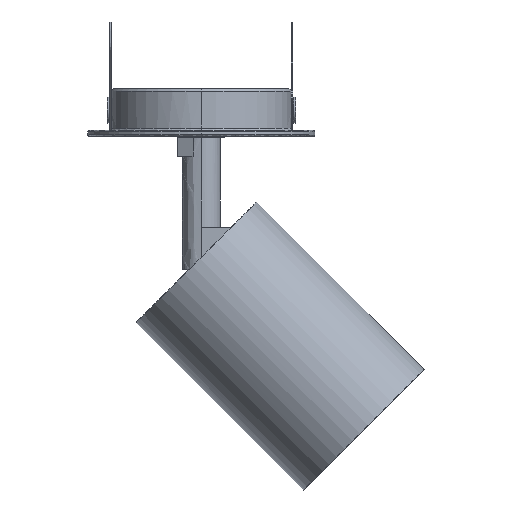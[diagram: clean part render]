
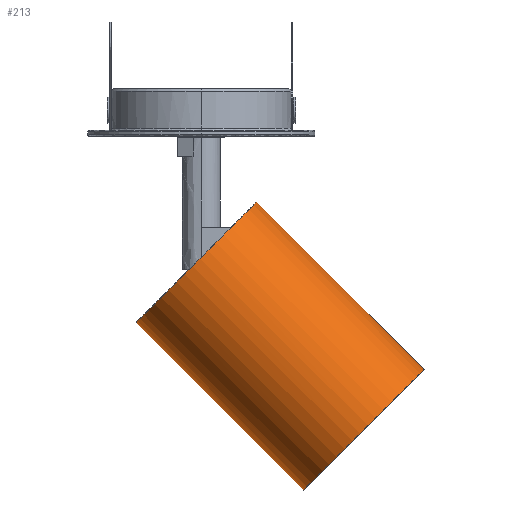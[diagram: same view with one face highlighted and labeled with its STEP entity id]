
A CAD part, front view. The second image highlights one B-rep face of the part: STEP entity #213.
In plain terms, the highlighted free-form (B-spline) face has degree [2, 1] with [9, 2] control points.
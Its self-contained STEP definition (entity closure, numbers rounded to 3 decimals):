
#213=ADVANCED_FACE('',(#781),#8598,.T.);
#781=FACE_OUTER_BOUND('',#1354,.T.);
#1354=EDGE_LOOP('',(#2315,#2316,#2317,#2318));
#2315=ORIENTED_EDGE('',*,*,#4972,.T.);
#2316=ORIENTED_EDGE('',*,*,#4968,.T.);
#2317=ORIENTED_EDGE('',*,*,#4973,.T.);
#2318=ORIENTED_EDGE('',*,*,#4969,.T.);
#4968=EDGE_CURVE('',#7781,#7782,#6339,.T.);
#4969=EDGE_CURVE('',#7783,#7780,#6340,.T.);
#4972=EDGE_CURVE('',#7780,#7781,#7112,.T.);
#4973=EDGE_CURVE('',#7782,#7783,#7113,.T.);
#6339=B_SPLINE_CURVE_WITH_KNOTS('',1,(#11070,#11071),.UNSPECIFIED.,.F.,
 .F.,(2,2),(0.,50.),.UNSPECIFIED.);
#6340=B_SPLINE_CURVE_WITH_KNOTS('',1,(#11072,#11073),.UNSPECIFIED.,.F.,
 .F.,(2,2),(0.,50.),.UNSPECIFIED.);
#7112=(
BOUNDED_CURVE()
B_SPLINE_CURVE(2,(#11084,#11085,#11086,#11087,#11088),.UNSPECIFIED.,.F.,
 .F.)
B_SPLINE_CURVE_WITH_KNOTS((3,2,3),(0.,28.274,56.549),
 .UNSPECIFIED.)
CURVE()
GEOMETRIC_REPRESENTATION_ITEM()
RATIONAL_B_SPLINE_CURVE((1.,0.707,1.,0.707,1.))
REPRESENTATION_ITEM('')
);
#7113=(
BOUNDED_CURVE()
B_SPLINE_CURVE(2,(#11089,#11090,#11091,#11092,#11093),.UNSPECIFIED.,.F.,
 .F.)
B_SPLINE_CURVE_WITH_KNOTS((3,2,3),(0.,28.274,56.549),
 .UNSPECIFIED.)
CURVE()
GEOMETRIC_REPRESENTATION_ITEM()
RATIONAL_B_SPLINE_CURVE((1.,0.707,1.,0.707,1.))
REPRESENTATION_ITEM('')
);
#7780=VERTEX_POINT('',#11061);
#7781=VERTEX_POINT('',#11062);
#7782=VERTEX_POINT('',#11063);
#7783=VERTEX_POINT('',#11064);
#8598=(
BOUNDED_SURFACE()
B_SPLINE_SURFACE(2,1,((#11005,#11006),(#11007,#11008),(#11009,#11010),(#11011,
#11012),(#11013,#11014),(#11015,#11016),(#11017,#11018),(#11019,#11020),
(#11021,#11022)),.UNSPECIFIED.,.T.,.F.,.F.)
B_SPLINE_SURFACE_WITH_KNOTS((3,2,2,2,3),(2,2),(0.,1.571,3.142,
4.712,6.283),(0.,60.),.UNSPECIFIED.)
GEOMETRIC_REPRESENTATION_ITEM()
RATIONAL_B_SPLINE_SURFACE(((1.,1.),(0.707,0.707),
(1.,1.),(0.707,0.707),(1.,1.),(0.707,
0.707),(1.,1.),(0.707,0.707),(1.,1.)))
REPRESENTATION_ITEM('')
SURFACE()
);
#11005=CARTESIAN_POINT('',(37.85,-8.514,-40.221));
#11006=CARTESIAN_POINT('',(-4.577,-8.514,2.205));
#11007=CARTESIAN_POINT('',(25.122,-8.514,-52.949));
#11008=CARTESIAN_POINT('',(-17.304,-8.514,-10.523));
#11009=CARTESIAN_POINT('',(25.122,-26.514,-52.949));
#11010=CARTESIAN_POINT('',(-17.304,-26.514,-10.523));
#11011=CARTESIAN_POINT('',(25.122,-44.514,-52.949));
#11012=CARTESIAN_POINT('',(-17.304,-44.514,-10.523));
#11013=CARTESIAN_POINT('',(37.85,-44.514,-40.221));
#11014=CARTESIAN_POINT('',(-4.577,-44.514,2.205));
#11015=CARTESIAN_POINT('',(50.578,-44.514,-27.493));
#11016=CARTESIAN_POINT('',(8.151,-44.514,14.933));
#11017=CARTESIAN_POINT('',(50.578,-26.514,-27.493));
#11018=CARTESIAN_POINT('',(8.151,-26.514,14.933));
#11019=CARTESIAN_POINT('',(50.578,-8.514,-27.493));
#11020=CARTESIAN_POINT('',(8.151,-8.514,14.933));
#11021=CARTESIAN_POINT('',(37.85,-8.514,-40.221));
#11022=CARTESIAN_POINT('',(-4.577,-8.514,2.205));
#11061=CARTESIAN_POINT('',(21.587,-26.514,-49.414));
#11062=CARTESIAN_POINT('',(47.042,-26.514,-23.958));
#11063=CARTESIAN_POINT('',(11.687,-26.514,11.397));
#11064=CARTESIAN_POINT('',(-13.769,-26.514,-14.058));
#11070=CARTESIAN_POINT('',(47.042,-26.514,-23.958));
#11071=CARTESIAN_POINT('',(11.687,-26.514,11.397));
#11072=CARTESIAN_POINT('',(-13.769,-26.514,-14.058));
#11073=CARTESIAN_POINT('',(21.587,-26.514,-49.414));
#11084=CARTESIAN_POINT('',(21.587,-26.514,-49.414));
#11085=CARTESIAN_POINT('',(21.587,-44.514,-49.414));
#11086=CARTESIAN_POINT('',(34.314,-44.514,-36.686));
#11087=CARTESIAN_POINT('',(47.042,-44.514,-23.958));
#11088=CARTESIAN_POINT('',(47.042,-26.514,-23.958));
#11089=CARTESIAN_POINT('',(11.687,-26.514,11.397));
#11090=CARTESIAN_POINT('',(11.687,-44.514,11.397));
#11091=CARTESIAN_POINT('',(-1.041,-44.514,-1.33));
#11092=CARTESIAN_POINT('',(-13.769,-44.514,-14.058));
#11093=CARTESIAN_POINT('',(-13.769,-26.514,-14.058));
